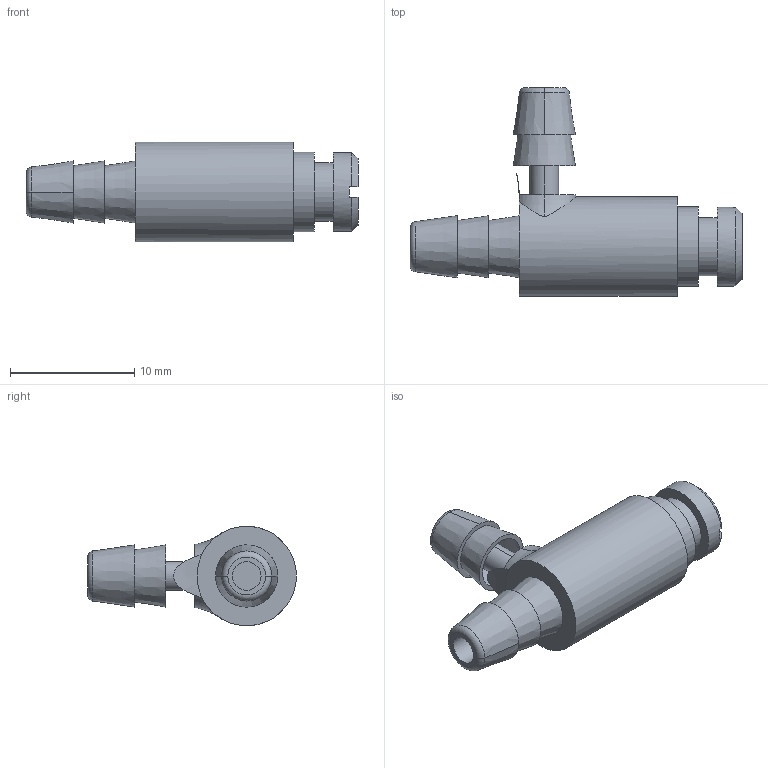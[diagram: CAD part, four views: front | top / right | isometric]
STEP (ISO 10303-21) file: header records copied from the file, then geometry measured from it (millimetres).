
FILE_DESCRIPTION(/* description */ ('SolidWorks IGES file using NURBS representation for surfaces '),/* implementation_level */ '2;1');
FILE_NAME(/* name */ 'K:\Normteile INVENTOR\Air-Logic\Needle Valves\F-2822-40-B85-V.IGS.ipt.stp',/* time_stamp */ '2020-05-27T10:42:00+02:00',/* author */ ('amarsh'),/* organization */ (''),/* preprocessor_version */ 'ST-DEVELOPER v18',/* originating_system */ 'Autodesk Inventor 2020',/* authorisation */ '');
FILE_SCHEMA (('AUTOMOTIVE_DESIGN { 1 0 10303 214 3 1 1 }'));
Length unit declared in the file: millimetre
Products named in the file (1): F-2822-40-B85-V.IGS
Bounding box: 26.7 x 16.8 x 8 mm (x, y, z)
Volume: 994.1 mm3; surface area: 971.5 mm2
Topology: 2 solids, 2 shells, 43 faces, 101 edges, 71 vertices
Faces by surface type: plane 17, cone 10, cylinder 8, torus 7, bspline 1
Full cylindrical faces by diameter (mm): 2.3 x1, 4.7 x1, 6.35 x1, 6.4 x1, 8 x1
Entity records: 1427 total; most frequent: CARTESIAN_POINT 339, DIRECTION 239, ORIENTED_EDGE 202, AXIS2_PLACEMENT_3D 107, EDGE_CURVE 101, VERTEX_POINT 71, CIRCLE 64, EDGE_LOOP 52
